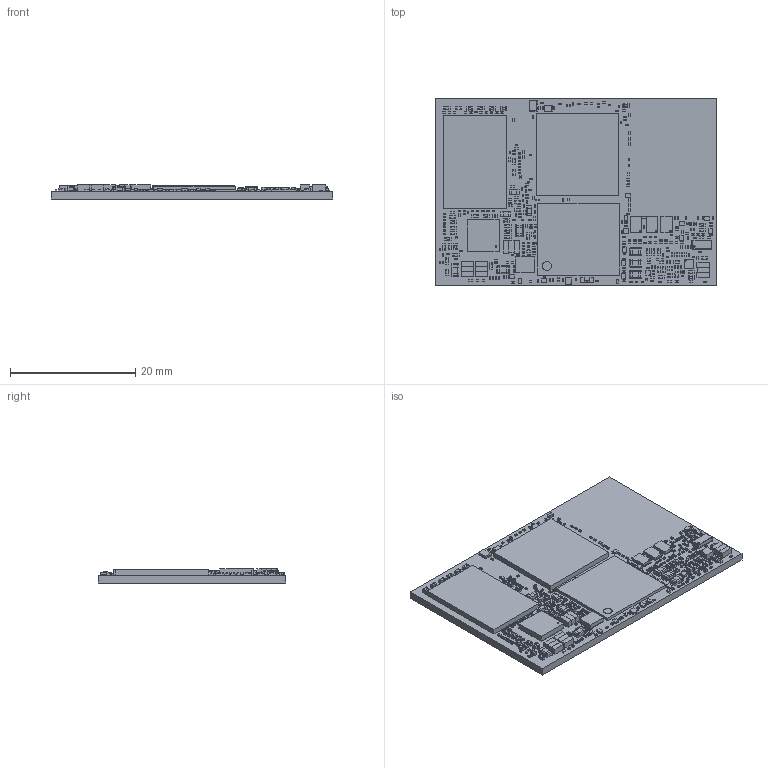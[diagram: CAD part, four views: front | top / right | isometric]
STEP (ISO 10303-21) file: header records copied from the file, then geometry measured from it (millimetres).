
FILE_DESCRIPTION(('Open CASCADE Model'),'2;1');
FILE_NAME('Open CASCADE Shape Model','2026-03-16T12:08:12',('Author'),( 'Open CASCADE'),'Open CASCADE STEP processor 7.5','Open CASCADE 7.5' ,'Unknown');
FILE_SCHEMA(('AUTOMOTIVE_DESIGN { 1 0 10303 214 1 1 1 1 }'));
Length unit declared in the file: millimetre
Products named in the file (579): PCB; Board; Open CASCADE STEP translator 7.5 1.1.1; R167; 01005_PAN; D1; 8922967904; R166; R125; Q12; CST3C_z90; Component1; Component2; Component3; Component4; R165; R164; R163; R162; R161; R160; R152; R151; R148; R146; C191; CAP0201 (0603); C190; R143; R132; R131; R130; R129; R127; R126; R118; U14; SN74LVC1G08DPWR; R117; R116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
Assembly tree (945 placements, depth 4):
  PCB
    Board
      Open CASCADE STEP translator 7.5 1.1.1
    R167
      01005_PAN
    D1
      8922967904
    R166
      01005_PAN
    R125
      01005_PAN
    Q12
      CST3C_z90
        Component1
        Component2
        Component3
        Component4
    R165
      01005_PAN
    R164
      01005_PAN
    R163
      01005_PAN
    R162
      01005_PAN
    R161
      01005_PAN
    R160
      01005_PAN
    R152
      01005_PAN
    R151
      01005_PAN
    R148
      01005_PAN
    R146
      01005_PAN
    C191
      CAP0201 (0603)
    C190
      CAP0201 (0603)
    R143
      01005_PAN
    R132
      01005_PAN
    R131
      01005_PAN
    R130
      01005_PAN
    R129
      01005_PAN
    R127
      01005_PAN
    R126
      01005_PAN
    R118
      01005_PAN
    U14
      SN74LVC1G08DPWR
    R117
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Bounding box: 45 x 30 x 2.26 mm (x, y, z)
Volume: 2158.8 mm3; surface area: 4814 mm2
Topology: 1522 solids, 1732 shells, 13977 faces, 31465 edges, 19450 vertices
Faces by surface type: plane 11322, cylinder 1666, sphere 565, bspline 424
Full cylindrical faces by diameter (mm): 0.032 x1, 0.099 x1, 0.255 x1, 1.438 x1
Entity records: 68394 total; most frequent: CARTESIAN_POINT 11272, DIRECTION 8972, ORIENTED_EDGE 7052, EDGE_CURVE 3742, AXIS2_PLACEMENT_3D 3092, LINE 2788, VECTOR 2788, VERTEX_POINT 2716
